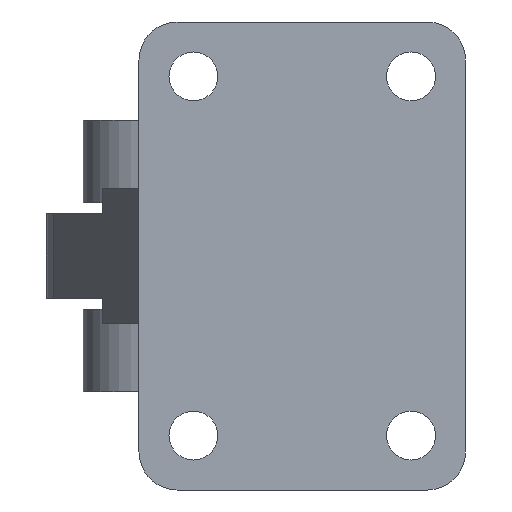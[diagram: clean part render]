
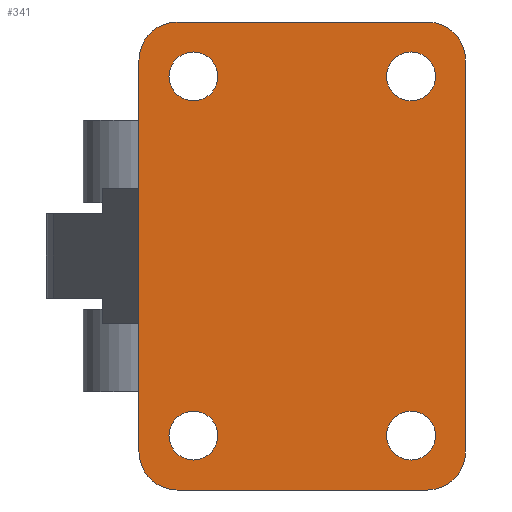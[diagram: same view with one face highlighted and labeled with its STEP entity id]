
A CAD part, front view. The second image highlights one B-rep face of the part: STEP entity #341.
In plain terms, the highlighted planar face has unit normal (0, -1, 0).
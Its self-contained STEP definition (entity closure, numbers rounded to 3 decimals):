
#92 = VERTEX_POINT ( 'NONE', #881 ) ;
#140 = EDGE_CURVE ( 'NONE', #254, #253, #785, .T. ) ;
#147 = EDGE_CURVE ( 'NONE', #194, #92, #900, .T. ) ;
#167 = VERTEX_POINT ( 'NONE', #932 ) ;
#194 = VERTEX_POINT ( 'NONE', #973 ) ;
#203 = EDGE_CURVE ( 'NONE', #257, #256, #1040, .T. ) ;
#211 = VERTEX_POINT ( 'NONE', #1000 ) ;
#219 = EDGE_CURVE ( 'NONE', #211, #167, #1027, .T. ) ;
#226 = EDGE_CURVE ( 'NONE', #256, #257, #1059, .T. ) ;
#241 = EDGE_CURVE ( 'NONE', #92, #194, #1119, .T. ) ;
#253 = VERTEX_POINT ( 'NONE', #1087 ) ;
#254 = VERTEX_POINT ( 'NONE', #1156 ) ;
#256 = VERTEX_POINT ( 'NONE', #1092 ) ;
#257 = VERTEX_POINT ( 'NONE', #1091 ) ;
#258 = EDGE_CURVE ( 'NONE', #253, #254, #1145, .T. ) ;
#263 = EDGE_LOOP ( 'NONE', ( #264, #265, #267, #278, #354, #325, #366, #367 ) ) ;
#264 = ORIENTED_EDGE ( 'NONE', *, *, #285, .F. ) ;
#265 = ORIENTED_EDGE ( 'NONE', *, *, #266, .T. ) ;
#266 = EDGE_CURVE ( 'NONE', #332, #277, #1103, .T. ) ;
#267 = ORIENTED_EDGE ( 'NONE', *, *, #276, .F. ) ;
#268 = ORIENTED_EDGE ( 'NONE', *, *, #203, .T. ) ;
#269 = ORIENTED_EDGE ( 'NONE', *, *, #226, .T. ) ;
#270 = EDGE_LOOP ( 'NONE', ( #271, #272 ) ) ;
#271 = ORIENTED_EDGE ( 'NONE', *, *, #147, .T. ) ;
#272 = ORIENTED_EDGE ( 'NONE', *, *, #241, .T. ) ;
#273 = VERTEX_POINT ( 'NONE', #1113 ) ;
#274 = EDGE_CURVE ( 'NONE', #339, #305, #1111, .T. ) ;
#276 = EDGE_CURVE ( 'NONE', #273, #277, #1151, .T. ) ;
#277 = VERTEX_POINT ( 'NONE', #1133 ) ;
#278 = ORIENTED_EDGE ( 'NONE', *, *, #353, .T. ) ;
#285 = EDGE_CURVE ( 'NONE', #332, #342, #1177, .T. ) ;
#295 = EDGE_LOOP ( 'NONE', ( #296, #297 ) ) ;
#296 = ORIENTED_EDGE ( 'NONE', *, *, #140, .T. ) ;
#297 = ORIENTED_EDGE ( 'NONE', *, *, #258, .T. ) ;
#303 = EDGE_CURVE ( 'NONE', #304, #305, #1191, .T. ) ;
#304 = VERTEX_POINT ( 'NONE', #1180 ) ;
#305 = VERTEX_POINT ( 'NONE', #1179 ) ;
#325 = ORIENTED_EDGE ( 'NONE', *, *, #274, .T. ) ;
#328 = EDGE_CURVE ( 'NONE', #167, #211, #1224, .T. ) ;
#332 = VERTEX_POINT ( 'NONE', #1269 ) ;
#336 = EDGE_LOOP ( 'NONE', ( #268, #269 ) ) ;
#338 = EDGE_CURVE ( 'NONE', #339, #340, #1298, .T. ) ;
#339 = VERTEX_POINT ( 'NONE', #1291 ) ;
#340 = VERTEX_POINT ( 'NONE', #1290 ) ;
#341 = ADVANCED_FACE ( 'NONE', ( #1279, #1278, #1277, #1293, #1292 ), #1251, .F. ) ;
#342 = VERTEX_POINT ( 'NONE', #1252 ) ;
#353 = EDGE_CURVE ( 'NONE', #273, #340, #1258, .T. ) ;
#354 = ORIENTED_EDGE ( 'NONE', *, *, #338, .F. ) ;
#360 = EDGE_LOOP ( 'NONE', ( #361, #362 ) ) ;
#361 = ORIENTED_EDGE ( 'NONE', *, *, #328, .T. ) ;
#362 = ORIENTED_EDGE ( 'NONE', *, *, #219, .T. ) ;
#366 = ORIENTED_EDGE ( 'NONE', *, *, #303, .F. ) ;
#367 = ORIENTED_EDGE ( 'NONE', *, *, #368, .T. ) ;
#368 = EDGE_CURVE ( 'NONE', #304, #342, #1343, .T. ) ;
#782 = DIRECTION ( 'NONE',  ( 0., 0., 1. ) ) ;
#783 = DIRECTION ( 'NONE',  ( 0., 1., 0. ) ) ;
#784 = AXIS2_PLACEMENT_3D ( 'NONE', #791, #783, #782 ) ;
#785 = CIRCLE ( 'NONE', #784, 4.5 ) ;
#791 = CARTESIAN_POINT ( 'NONE',  ( 20., -14., -33. ) ) ;
#881 = CARTESIAN_POINT ( 'NONE',  ( -20., -14., 28.5 ) ) ;
#896 = DIRECTION ( 'NONE',  ( 0., 0., 1. ) ) ;
#897 = DIRECTION ( 'NONE',  ( 0., 1., 0. ) ) ;
#898 = CARTESIAN_POINT ( 'NONE',  ( -20., -14., 33. ) ) ;
#899 = AXIS2_PLACEMENT_3D ( 'NONE', #898, #897, #896 ) ;
#900 = CIRCLE ( 'NONE', #899, 4.5 ) ;
#932 = CARTESIAN_POINT ( 'NONE',  ( -20., -14., -28.5 ) ) ;
#973 = CARTESIAN_POINT ( 'NONE',  ( -20., -14., 37.5 ) ) ;
#989 = DIRECTION ( 'NONE',  ( 0., 0., 1. ) ) ;
#990 = DIRECTION ( 'NONE',  ( 0., 1., 0. ) ) ;
#991 = CARTESIAN_POINT ( 'NONE',  ( -20., -14., -33. ) ) ;
#992 = AXIS2_PLACEMENT_3D ( 'NONE', #991, #990, #989 ) ;
#1000 = CARTESIAN_POINT ( 'NONE',  ( -20., -14., -37.5 ) ) ;
#1027 = CIRCLE ( 'NONE', #992, 4.5 ) ;
#1033 = DIRECTION ( 'NONE',  ( 0., 0., 1. ) ) ;
#1034 = DIRECTION ( 'NONE',  ( 0., 1., 0. ) ) ;
#1035 = AXIS2_PLACEMENT_3D ( 'NONE', #1042, #1034, #1033 ) ;
#1040 = CIRCLE ( 'NONE', #1035, 4.5 ) ;
#1042 = CARTESIAN_POINT ( 'NONE',  ( 20., -14., 33. ) ) ;
#1055 = DIRECTION ( 'NONE',  ( 0., 0., 1. ) ) ;
#1056 = DIRECTION ( 'NONE',  ( 0., 1., 0. ) ) ;
#1057 = CARTESIAN_POINT ( 'NONE',  ( 20., -14., 33. ) ) ;
#1058 = AXIS2_PLACEMENT_3D ( 'NONE', #1057, #1056, #1055 ) ;
#1059 = CIRCLE ( 'NONE', #1058, 4.5 ) ;
#1087 = CARTESIAN_POINT ( 'NONE',  ( 20., -14., -37.5 ) ) ;
#1088 = DIRECTION ( 'NONE',  ( 0., 0., 1. ) ) ;
#1091 = CARTESIAN_POINT ( 'NONE',  ( 20., -14., 37.5 ) ) ;
#1092 = CARTESIAN_POINT ( 'NONE',  ( 20., -14., 28.5 ) ) ;
#1103 = CIRCLE ( 'NONE', #1117, 7. ) ;
#1108 = DIRECTION ( 'NONE',  ( 0., -1., 0. ) ) ;
#1109 = CARTESIAN_POINT ( 'NONE',  ( 23., -14., 36. ) ) ;
#1110 = AXIS2_PLACEMENT_3D ( 'NONE', #1109, #1108, #1152 ) ;
#1111 = CIRCLE ( 'NONE', #1110, 7. ) ;
#1113 = CARTESIAN_POINT ( 'NONE',  ( 23., -14., -43. ) ) ;
#1114 = DIRECTION ( 'NONE',  ( 0., 0., 1. ) ) ;
#1115 = DIRECTION ( 'NONE',  ( 0., -1., 0. ) ) ;
#1116 = CARTESIAN_POINT ( 'NONE',  ( -23., -14., -36. ) ) ;
#1117 = AXIS2_PLACEMENT_3D ( 'NONE', #1116, #1115, #1114 ) ;
#1118 = AXIS2_PLACEMENT_3D ( 'NONE', #1154, #1153, #1088 ) ;
#1119 = CIRCLE ( 'NONE', #1118, 4.5 ) ;
#1133 = CARTESIAN_POINT ( 'NONE',  ( -23., -14., -43. ) ) ;
#1134 = DIRECTION ( 'NONE',  ( -1., 0., 0. ) ) ;
#1135 = VECTOR ( 'NONE', #1134, 1000. ) ;
#1141 = DIRECTION ( 'NONE',  ( 0., 0., 1. ) ) ;
#1142 = DIRECTION ( 'NONE',  ( 0., 1., 0. ) ) ;
#1143 = CARTESIAN_POINT ( 'NONE',  ( 20., -14., -33. ) ) ;
#1144 = AXIS2_PLACEMENT_3D ( 'NONE', #1143, #1142, #1141 ) ;
#1145 = CIRCLE ( 'NONE', #1144, 4.5 ) ;
#1146 = CARTESIAN_POINT ( 'NONE',  ( -30., -14., -43. ) ) ;
#1151 = LINE ( 'NONE', #1146, #1135 ) ;
#1152 = DIRECTION ( 'NONE',  ( 0., 0., 1. ) ) ;
#1153 = DIRECTION ( 'NONE',  ( 0., 1., 0. ) ) ;
#1154 = CARTESIAN_POINT ( 'NONE',  ( -20., -14., 33. ) ) ;
#1156 = CARTESIAN_POINT ( 'NONE',  ( 20., -14., -28.5 ) ) ;
#1160 = VECTOR ( 'NONE', #1161, 1000. ) ;
#1161 = DIRECTION ( 'NONE',  ( 0., 0., 1. ) ) ;
#1176 = CARTESIAN_POINT ( 'NONE',  ( -30., -14., -43. ) ) ;
#1177 = LINE ( 'NONE', #1176, #1160 ) ;
#1179 = CARTESIAN_POINT ( 'NONE',  ( 23., -14., 43. ) ) ;
#1180 = CARTESIAN_POINT ( 'NONE',  ( -23., -14., 43. ) ) ;
#1190 = CARTESIAN_POINT ( 'NONE',  ( -30., -14., 43. ) ) ;
#1191 = LINE ( 'NONE', #1190, #1203 ) ;
#1202 = DIRECTION ( 'NONE',  ( 1., 0., 0. ) ) ;
#1203 = VECTOR ( 'NONE', #1202, 1000. ) ;
#1223 = AXIS2_PLACEMENT_3D ( 'NONE', #1226, #1227, #1225 ) ;
#1224 = CIRCLE ( 'NONE', #1223, 4.5 ) ;
#1225 = DIRECTION ( 'NONE',  ( 0., 0., 1. ) ) ;
#1226 = CARTESIAN_POINT ( 'NONE',  ( -20., -14., -33. ) ) ;
#1227 = DIRECTION ( 'NONE',  ( 0., 1., 0. ) ) ;
#1240 = DIRECTION ( 'NONE',  ( 0., 0., 1. ) ) ;
#1241 = DIRECTION ( 'NONE',  ( 0., 1., 0. ) ) ;
#1242 = CARTESIAN_POINT ( 'NONE',  ( -30., -14., 43. ) ) ;
#1250 = AXIS2_PLACEMENT_3D ( 'NONE', #1242, #1241, #1240 ) ;
#1251 = PLANE ( 'NONE',  #1250 ) ;
#1252 = CARTESIAN_POINT ( 'NONE',  ( -30., -14., 36. ) ) ;
#1257 = AXIS2_PLACEMENT_3D ( 'NONE', #1289, #1288, #1287 ) ;
#1258 = CIRCLE ( 'NONE', #1257, 7. ) ;
#1269 = CARTESIAN_POINT ( 'NONE',  ( -30., -14., -36. ) ) ;
#1270 = DIRECTION ( 'NONE',  ( 0., 0., -1. ) ) ;
#1271 = VECTOR ( 'NONE', #1270, 1000. ) ;
#1272 = CARTESIAN_POINT ( 'NONE',  ( 30., -14., -43. ) ) ;
#1277 = FACE_BOUND ( 'NONE', #295, .T. ) ;
#1278 = FACE_BOUND ( 'NONE', #270, .T. ) ;
#1279 = FACE_BOUND ( 'NONE', #336, .T. ) ;
#1287 = DIRECTION ( 'NONE',  ( 0., 0., 1. ) ) ;
#1288 = DIRECTION ( 'NONE',  ( 0., -1., 0. ) ) ;
#1289 = CARTESIAN_POINT ( 'NONE',  ( 23., -14., -36. ) ) ;
#1290 = CARTESIAN_POINT ( 'NONE',  ( 30., -14., -36. ) ) ;
#1291 = CARTESIAN_POINT ( 'NONE',  ( 30., -14., 36. ) ) ;
#1292 = FACE_OUTER_BOUND ( 'NONE', #263, .T. ) ;
#1293 = FACE_BOUND ( 'NONE', #360, .T. ) ;
#1298 = LINE ( 'NONE', #1272, #1271 ) ;
#1317 = AXIS2_PLACEMENT_3D ( 'NONE', #1319, #1380, #1349 ) ;
#1319 = CARTESIAN_POINT ( 'NONE',  ( -23., -14., 36. ) ) ;
#1343 = CIRCLE ( 'NONE', #1317, 7. ) ;
#1349 = DIRECTION ( 'NONE',  ( 0., 0., 1. ) ) ;
#1380 = DIRECTION ( 'NONE',  ( 0., -1., 0. ) ) ;
